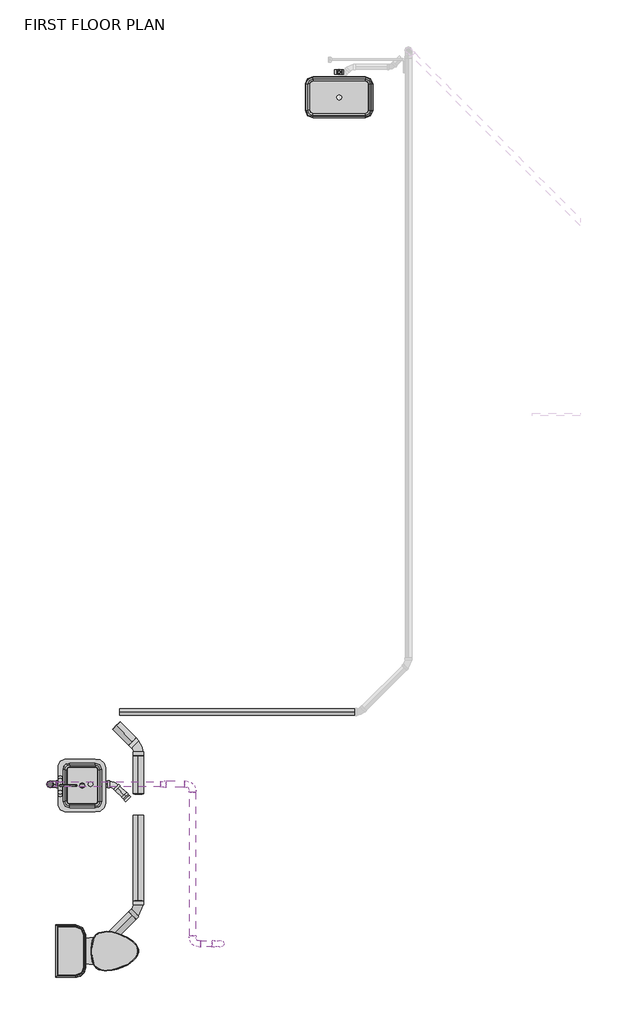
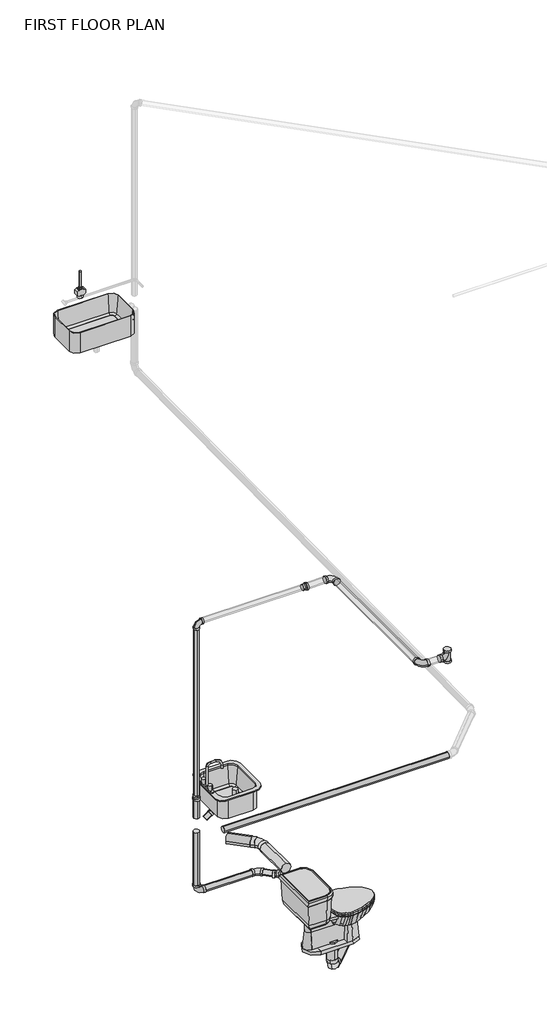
# One storey, part 1 of 2: 18 pipe segments, 13 pipe fittings, 3 flow terminals.
"""IFC4 building model written with IfcOpenShell, lengths in millimetres."""

from ifc_helpers import new_model, si_unit, point, frame, frame_2d, origin, place, context, project, spatial, circle_curve, trimmed, segment, composite_curve, outline, extrude, transform, mapped, element, save
from components import lsy_sink_1a_065a4558, flow_terminal_62a433f7, toilet_domestic_3d1_toilet_domestic_3d_a08e12bc, toilet_domestic_3d1_toilet_domestic_3d_5530cc89, bend_pvc_sch_40_dwv_standard_738aab8b, bend_pvc_sch_40_dwv_standard_9345205b, bend_pvc_sch_40_dwv_standard_cc7cb89c, bend_pvc_sch_40_dwv_standard_a5322a10, bend_pvc_sch_40_dwv_standard_74c0f0ae, bend_pvc_sch_40_dwv_standard_1eaeee76, bend_pvc_sch_40_dwv_standard_ed0e40d1, reducer_pvc_sch_40_dwv_standard_b23fa098, reducer_pvc_sch_40_dwv_standard_540954d9, reducer_pvc_sch_40_dwv_standard_acc2aa3f, tee_sanitary_pvc_sch_40_dwv_standard_7b7ecc20

model = new_model("IFC4")

# Units and contexts
model_context = context("Model", 3, world=origin())
ifc_project = project(units=[si_unit("LENGTHUNIT", "METRE", prefix="MILLI")], contexts=[model_context])

# Site, building, storey
site = spatial("IfcSite", under=ifc_project)
building = spatial("IfcBuilding", under=site)
storey = spatial("IfcBuildingStorey", under=building, Name="FIRST FLOOR PLAN", Elevation=0.0)

# Flow terminals
placement = place(None, origin())
lsy_sink_1a_shape = lsy_sink_1a_065a4558(model_context)
element("IfcFlowTerminal", 1, ObjectType="LSY_Sink_1A : 25\"W x 15\"D", at=placement, inside=storey, context=model_context, shape_type="MappedRepresentation", body=[
    mapped(lsy_sink_1a_shape, transform((14185.1237397, 13153.8286295, -25.4), x_axis=(1.0, 0.0, 0.0), y_axis=(0.0, 1.0, 0.0), z_axis=(0.0, 0.0, 1.0))),
])
flow_terminal_shape = flow_terminal_62a433f7(model_context)
element("IfcFlowTerminal", 2, ObjectType="Sink Vanity-Square : 20\" x 18\"", at=placement, inside=storey, context=model_context, shape_type="MappedRepresentation", body=[
    mapped(flow_terminal_shape, transform((11674.4708809, 6418.6472901, 0.0), x_axis=(0.0, 1.0, 0.0), y_axis=(-1.0, 0.0, 0.0), z_axis=(0.0, 0.0, 1.0))),
])
toilet_domestic_3d1_toilet_domestic_3d_shape = toilet_domestic_3d1_toilet_domestic_3d_a08e12bc(model_context)
toilet_domestic_3d1_toilet_domestic_3d_2_shape = toilet_domestic_3d1_toilet_domestic_3d_5530cc89(model_context)
element("IfcFlowTerminal", 3, ObjectType="Toilet-Domestic-3D1 : Toilet-Domestic-3D", at=placement, inside=storey, context=model_context, shape_type="MappedRepresentation", body=[
    mapped(toilet_domestic_3d1_toilet_domestic_3d_shape, transform((11963.6215072, 4840.8490306, 0.0), x_axis=(0.0, -1.0, 0.0), y_axis=(1.0, 0.0, 0.0), z_axis=(0.0, 0.0, 1.0))),
    mapped(toilet_domestic_3d1_toilet_domestic_3d_2_shape, transform((11963.6215072, 4840.8490306, 0.0), x_axis=(0.0, -1.0, 0.0), y_axis=(1.0, 0.0, 0.0), z_axis=(0.0, 0.0, 1.0))),
])

# Pipe fittings
bend_pvc_sch_40_dwv_standard_shape = bend_pvc_sch_40_dwv_standard_738aab8b(model_context)
element("IfcPipeFitting", 4, ObjectType="Bend - PVC - Sch 40 - DWV : Standard", at=placement, inside=storey, context=model_context, shape_type="MappedRepresentation", body=[
    mapped(bend_pvc_sch_40_dwv_standard_shape, transform((11417.0565969, 6447.2874502, 2578.1558761), x_axis=(0.0, 0.0, 1.0), y_axis=(1.0, 0.0, 0.0), z_axis=(0.0, 1.0, 0.0))),
])
bend_pvc_sch_40_dwv_standard_2_shape = bend_pvc_sch_40_dwv_standard_9345205b(model_context)
element("IfcPipeFitting", 5, ObjectType="Bend - PVC - Sch 40 - DWV : Standard", at=placement, inside=storey, context=model_context, shape_type="MappedRepresentation", body=[
    mapped(bend_pvc_sch_40_dwv_standard_2_shape, transform((11840.9423168, 4814.7781387, -257.1661819), x_axis=(-0.7070684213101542, -0.7070684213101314, 0.010416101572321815), y_axis=(0.007365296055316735, 0.007365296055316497, 0.9999457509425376), z_axis=(-0.7071067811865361, 0.707106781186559, 0.0))),
])
bend_pvc_sch_40_dwv_standard_3_shape = bend_pvc_sch_40_dwv_standard_cc7cb89c(model_context)
element("IfcPipeFitting", 6, ObjectType="Bend - PVC - Sch 40 - DWV : Standard", at=placement, inside=storey, context=model_context, shape_type="MappedRepresentation", body=[
    mapped(bend_pvc_sch_40_dwv_standard_3_shape, transform((11591.3656869, 6447.0365306, 526.8515567), x_axis=(-0.9999989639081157, 0.0014395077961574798, 0.0), y_axis=(0.0, 0.0, -1.0), z_axis=(-0.0014395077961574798, -0.9999989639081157, 0.0))),
])
bend_pvc_sch_40_dwv_standard_4_shape = bend_pvc_sch_40_dwv_standard_a5322a10(model_context)
element("IfcPipeFitting", 7, ObjectType="Bend - PVC - Sch 40 - DWV : Standard", at=placement, inside=storey, context=model_context, shape_type="MappedRepresentation", body=[
    mapped(bend_pvc_sch_40_dwv_standard_4_shape, transform((12266.6594341, 5240.495256, -263.4375873), x_axis=(0.7070684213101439, 0.7070684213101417, -0.010416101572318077), y_axis=(-0.7071319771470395, 0.7070684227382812, -0.004314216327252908), z_axis=(0.004314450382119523, 0.01041600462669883, 0.9999364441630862))),
])
bend_pvc_sch_40_dwv_standard_5_shape = bend_pvc_sch_40_dwv_standard_74c0f0ae(model_context)
element("IfcPipeFitting", 8, ObjectType="Bend - PVC - Sch 40 - DWV : Standard", at=placement, inside=storey, context=model_context, shape_type="MappedRepresentation", body=[
    mapped(bend_pvc_sch_40_dwv_standard_5_shape, transform((12266.6594341, 6800.3087308, -279.6856444), x_axis=(0.0, 0.9999457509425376, -0.0104161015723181), y_axis=(-0.9999080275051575, 0.000141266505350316, 0.013561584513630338), z_axis=(0.013562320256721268, 0.010415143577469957, 0.999853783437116))),
])
bend_pvc_sch_40_dwv_standard_6_shape = bend_pvc_sch_40_dwv_standard_1eaeee76(model_context)
element("IfcPipeFitting", 9, ObjectType="Bend - PVC - Sch 40 - DWV : Standard", at=placement, inside=storey, context=model_context, shape_type="MappedRepresentation", body=[
    mapped(bend_pvc_sch_40_dwv_standard_6_shape, transform((11417.0565969, 6447.2747478, -280.0800585), x_axis=(0.0, 0.0, -1.0), y_axis=(1.0, 0.0, 0.0), z_axis=(0.0, -1.0, 0.0))),
])
element("IfcPipeFitting", 10, ObjectType="Bend - PVC - Sch 40 - DWV : Standard", at=placement, inside=storey, context=model_context, shape_type="MappedRepresentation", body=[
    mapped(bend_pvc_sch_40_dwv_standard_6_shape, transform((12788.6565969, 6447.2874502, 2578.1992188), x_axis=(0.0, 1.0, 0.0), y_axis=(-1.0, 0.0, 0.0), z_axis=(0.0, 0.0, 1.0))),
])
element("IfcPipeFitting", 11, ObjectType="Bend - PVC - Sch 40 - DWV : Standard", at=placement, inside=storey, context=model_context, shape_type="MappedRepresentation", body=[
    mapped(bend_pvc_sch_40_dwv_standard_6_shape, transform((12788.6565969, 4910.5049895, 2578.1992188), x_axis=(0.0, -1.0, 0.0), y_axis=(1.0, 0.0, 0.0), z_axis=(0.0, 0.0, 1.0))),
])
bend_pvc_sch_40_dwv_standard_7_shape = bend_pvc_sch_40_dwv_standard_ed0e40d1(model_context)
element("IfcPipeFitting", 12, ObjectType="Bend - PVC - Sch 40 - DWV : Standard", at=placement, inside=storey, context=model_context, shape_type="MappedRepresentation", body=[
    mapped(bend_pvc_sch_40_dwv_standard_7_shape, transform((12026.8031833, 6447.2747478, -280.0800585), x_axis=(-0.7071067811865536, 0.7071067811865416, 0.0), y_axis=(-0.7071067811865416, -0.7071067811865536, 0.0), z_axis=(0.0, 0.0, 1.0))),
])
reducer_pvc_sch_40_dwv_standard_shape = reducer_pvc_sch_40_dwv_standard_b23fa098(model_context)
element("IfcPipeFitting", 13, ObjectType="Reducer - PVC - Sch 40 - DWV : Standard", at=placement, inside=storey, context=model_context, shape_type="MappedRepresentation", body=[
    mapped(reducer_pvc_sch_40_dwv_standard_shape, transform((11417.0565969, 6447.2874502, 699.3686761), x_axis=(0.0, 0.0, 1.0), y_axis=(0.9999989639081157, -0.0014395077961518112, 0.0), z_axis=(0.0014395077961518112, 0.9999989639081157, 0.0))),
])
reducer_pvc_sch_40_dwv_standard_2_shape = reducer_pvc_sch_40_dwv_standard_540954d9(model_context)
element("IfcPipeFitting", 14, ObjectType="Reducer - PVC - Sch 40 - DWV : Standard", at=placement, inside=storey, context=model_context, shape_type="MappedRepresentation", body=[
    mapped(reducer_pvc_sch_40_dwv_standard_2_shape, transform((12170.1216808, 6303.9562504, -273.5097044), x_axis=(-0.7071067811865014, 0.7071067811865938, 0.0), y_axis=(-0.7070300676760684, -0.707030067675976, 0.014729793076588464), z_axis=(0.010415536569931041, 0.010415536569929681, 0.9998915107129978))),
])
reducer_pvc_sch_40_dwv_standard_3_shape = reducer_pvc_sch_40_dwv_standard_acc2aa3f(model_context)
element("IfcPipeFitting", 15, ObjectType="Reducer - PVC - Sch 40 - DWV : Standard", at=placement, inside=storey, context=model_context, shape_type="MappedRepresentation", body=[
    mapped(reducer_pvc_sch_40_dwv_standard_3_shape, transform((12483.8565969, 6447.2874502, 2578.1558761), x_axis=(1.0, 0.0, 0.0), y_axis=(0.0, 1.0, 0.0), z_axis=(0.0, 0.0, 1.0))),
])
tee_sanitary_pvc_sch_40_dwv_standard_shape = tee_sanitary_pvc_sch_40_dwv_standard_7b7ecc20(model_context)
element("IfcPipeFitting", 16, ObjectType="Tee Sanitary - PVC - Sch 40 - DWV : Standard", at=placement, inside=storey, context=model_context, shape_type="MappedRepresentation", body=[
    mapped(tee_sanitary_pvc_sch_40_dwv_standard_shape, transform((13056.4098972, 4910.5049895, 2578.1992188), x_axis=(0.0, 0.0, -1.0), y_axis=(1.0, 0.0, 0.0), z_axis=(0.0, -1.0, 0.0))),
])

# Pipe segments
element("IfcPipeSegment", 17, ObjectType="Cast Iron - SAN/STORM", at=placement, inside=storey, context=model_context, shape_type="SweptSolid", body=[
    extrude(outline(composite_curve([segment(trimmed(circle_curve(frame_2d((0.0, -50.403125)), 50.403125), [point((50.400391, -50.9281006))], [point((-0.5249756, -100.8035159))], False, "CARTESIAN"), True, "CONTINUOUS"), segment(trimmed(circle_curve(frame_2d((0.0, -50.403125)), 50.403125), [point((-0.5249756, -100.8035159))], [point((-50.400391, -49.8781494))], False, "CARTESIAN"), True, "CONTINUOUS"), segment(trimmed(circle_curve(frame_2d((0.0, -50.403125)), 50.403125), [point((-50.400391, -49.8781494))], [point((0.5249756, -0.002734))], False, "CARTESIAN"), True, "CONTINUOUS"), segment(trimmed(circle_curve(frame_2d((0.0, -50.403125)), 50.403125), [point((0.5249756, -0.002734))], [point((50.400391, -50.9281006))], False, "CARTESIAN"), True, "CONTINUOUS")], self_intersect=False)), frame((12208.2909359, 5182.8691854, -212.1800814), z_axis=(-0.7070684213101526, -0.7070684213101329, 0.010416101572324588), x_axis=(0.7071451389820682, -0.7069917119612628, 0.010414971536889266)), (0.0, 0.0, 1.0), 403.6373836),
])
element("IfcPipeSegment", 18, ObjectType="Cast Iron - SAN/STORM", at=placement, inside=storey, context=model_context, shape_type="SweptSolid", body=[
    extrude(outline(composite_curve([segment(trimmed(circle_curve(frame_2d((0.0, -50.403125)), 50.403125), [point((50.403125, -50.403125))], [point((0.0, -100.8062499))], False, "CARTESIAN"), True, "CONTINUOUS"), segment(trimmed(circle_curve(frame_2d((0.0, -50.403125)), 50.403125), [point((0.0, -100.8062499))], [point((-50.403125, -50.403125))], False, "CARTESIAN"), True, "CONTINUOUS"), segment(trimmed(circle_curve(frame_2d((0.0, -50.403125)), 50.403125), [point((-50.403125, -50.403125))], [point((0.0, 0.0))], False, "CARTESIAN"), True, "CONTINUOUS"), segment(trimmed(circle_curve(frame_2d((0.0, -50.403125)), 50.403125), [point((0.0, 0.0))], [point((50.403125, -50.403125))], False, "CARTESIAN"), True, "CONTINUOUS")], self_intersect=False)), frame((12266.6594341, 6719.8629277, -228.4418078), z_axis=(0.0, -0.9999457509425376, 0.010416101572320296), x_axis=(1.0, 0.0, 0.0)), (0.0, 0.0, 1.0), 366.5183681),
])
element("IfcPipeSegment", 19, ObjectType="Cast Iron - SAN/STORM", at=placement, inside=storey, context=model_context, shape_type="SweptSolid", body=[
    extrude(outline(composite_curve([segment(trimmed(circle_curve(frame_2d((0.0, -50.403125)), 50.403125), [point((-50.4029999, -50.5153783))], [point((-0.1122533, -0.000125))], False, "CARTESIAN"), True, "CONTINUOUS"), segment(trimmed(circle_curve(frame_2d((0.0, -50.403125)), 50.403125), [point((-0.1122533, -0.000125))], [point((50.403, -50.2908716))], False, "CARTESIAN"), True, "CONTINUOUS"), segment(trimmed(circle_curve(frame_2d((0.0, -50.403125)), 50.403125), [point((50.403, -50.2908716))], [point((0.1122534, -100.8061249))], False, "CARTESIAN"), True, "CONTINUOUS"), segment(trimmed(circle_curve(frame_2d((0.0, -50.403125)), 50.403125), [point((0.1122534, -100.8061249))], [point((-50.4029999, -50.5153783))], False, "CARTESIAN"), True, "CONTINUOUS")], self_intersect=False)), frame((12209.3977024, 6857.7216808, -329.9082019), z_axis=(-0.7071514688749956, 0.7070585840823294, 0.0022268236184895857), x_axis=(0.7070620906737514, 0.7071479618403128, 0.0022271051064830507)), (0.0, 0.0, 1.0), 218.87435),
])
element("IfcPipeSegment", 20, ObjectType="Cast Iron - SAN/STORM", at=placement, inside=storey, context=model_context, shape_type="SweptSolid", body=[
    extrude(outline(composite_curve([segment(trimmed(circle_curve(frame_2d((0.0, 50.403125)), 50.403125), [point((-50.403125, 50.4031246))], [point((-3e-07, 100.80625))], False, "CARTESIAN"), True, "CONTINUOUS"), segment(trimmed(circle_curve(frame_2d((0.0, 50.403125)), 50.403125), [point((-3e-07, 100.80625))], [point((50.4031251, 50.4031253))], False, "CARTESIAN"), True, "CONTINUOUS"), segment(trimmed(circle_curve(frame_2d((0.0, 50.403125)), 50.403125), [point((50.4031251, 50.4031253))], [point((4e-07, 0.0))], False, "CARTESIAN"), True, "CONTINUOUS"), segment(trimmed(circle_curve(frame_2d((0.0, 50.403125)), 50.403125), [point((4e-07, 0.0))], [point((-50.403125, 50.4031246))], False, "CARTESIAN"), True, "CONTINUOUS")], self_intersect=False)), frame((11840.9423168, 4764.3750138, -141.2634311), z_axis=(0.00013430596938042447, 5.060759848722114e-05, 0.9999999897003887), x_axis=(0.9999999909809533, -6.7969025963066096e-09, -0.000134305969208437)), (0.0, 0.0, 1.0), 191.0040713),
])
element("IfcPipeSegment", 21, ObjectType="Cast Iron - SAN/STORM", at=placement, inside=storey, context=model_context, shape_type="SweptSolid", body=[
    extrude(outline(composite_curve([segment(trimmed(circle_curve(frame_2d((11417.0565969, 6447.2874502)), 30.1625), [point((11386.8940969, 6447.2874502))], [point((11417.0565969, 6477.4499502))], False, "CARTESIAN"), True, "CONTINUOUS"), segment(trimmed(circle_curve(frame_2d((11417.0565969, 6447.2874502)), 30.1625), [point((11417.0565969, 6477.4499502))], [point((11447.2190969, 6447.2874502))], False, "CARTESIAN"), True, "CONTINUOUS"), segment(trimmed(circle_curve(frame_2d((11417.0565969, 6447.2874502)), 30.1625), [point((11447.2190969, 6447.2874502))], [point((11417.0565969, 6417.1249502))], False, "CARTESIAN"), True, "CONTINUOUS"), segment(trimmed(circle_curve(frame_2d((11417.0565969, 6447.2874502)), 30.1625), [point((11417.0565969, 6417.1249502))], [point((11386.8940969, 6447.2874502))], False, "CARTESIAN"), True, "CONTINUOUS")], self_intersect=False)), frame((0.0, 0.0, 508.5826067), z_axis=(0.0, 0.0, 1.0), x_axis=(1.0, 0.0, 0.0)), (0.0, 0.0, 1.0), 190.7860693),
])
element("IfcPipeSegment", 22, ObjectType="Cast Iron - SAN/STORM", at=placement, inside=storey, context=model_context, shape_type="SweptSolid", body=[
    extrude(outline(composite_curve([segment(trimmed(circle_curve(frame_2d((0.0, 24.209375)), 24.209375), [point((-24.209375, 24.209375))], [point((0.0, 48.41875))], False, "CARTESIAN"), True, "CONTINUOUS"), segment(trimmed(circle_curve(frame_2d((0.0, 24.209375)), 24.209375), [point((0.0, 48.41875))], [point((24.209375, 24.209375))], False, "CARTESIAN"), True, "CONTINUOUS"), segment(trimmed(circle_curve(frame_2d((0.0, 24.209375)), 24.209375), [point((24.209375, 24.209375))], [point((0.0, 0.0))], False, "CARTESIAN"), True, "CONTINUOUS"), segment(trimmed(circle_curve(frame_2d((0.0, 24.209375)), 24.209375), [point((0.0, 0.0))], [point((-24.209375, 24.209375))], False, "CARTESIAN"), True, "CONTINUOUS")], self_intersect=False)), frame((11689.146661, 6446.895774, 502.6421817), z_axis=(-0.9999989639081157, 0.0014395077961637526, 0.0), x_axis=(-0.0014395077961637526, -0.9999989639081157, 0.0)), (0.0, 0.0, 1.0), 51.7562755),
])
element("IfcPipeSegment", 23, ObjectType="Cast Iron - SAN/STORM", at=placement, inside=storey, context=model_context, shape_type="SweptSolid", body=[
    extrude(outline(composite_curve([segment(trimmed(circle_curve(frame_2d((11806.7485452, 6446.730636)), 24.209375), [point((11782.5391702, 6446.730636))], [point((11806.7485452, 6470.940011))], False, "CARTESIAN"), True, "CONTINUOUS"), segment(trimmed(circle_curve(frame_2d((11806.7485452, 6446.730636)), 24.209375), [point((11806.7485452, 6470.940011))], [point((11830.9579202, 6446.730636))], False, "CARTESIAN"), True, "CONTINUOUS"), segment(trimmed(circle_curve(frame_2d((11806.7485452, 6446.730636)), 24.209375), [point((11830.9579202, 6446.730636))], [point((11806.7485452, 6422.521261))], False, "CARTESIAN"), True, "CONTINUOUS"), segment(trimmed(circle_curve(frame_2d((11806.7485452, 6446.730636)), 24.209375), [point((11806.7485452, 6422.521261))], [point((11782.5391702, 6446.730636))], False, "CARTESIAN"), True, "CONTINUOUS")], self_intersect=False)), frame((0.0, 0.0, 471.3248589), z_axis=(0.0, 0.0, 1.0), x_axis=(1.0, 0.0, 0.0)), (0.0, 0.0, 1.0), 202.3705313),
])
element("IfcPipeSegment", 24, ObjectType="Cast Iron - SAN/STORM", at=placement, inside=storey, context=model_context, shape_type="SweptSolid", body=[
    extrude(outline(composite_curve([segment(trimmed(circle_curve(frame_2d((0.0, -24.209375)), 24.209375), [point((0.0609629, -7.67e-05))], [point((24.2092982, -24.2703378))], False, "CARTESIAN"), True, "CONTINUOUS"), segment(trimmed(circle_curve(frame_2d((0.0, -24.209375)), 24.209375), [point((24.2092982, -24.2703378))], [point((-0.0609629, -48.4186732))], False, "CARTESIAN"), True, "CONTINUOUS"), segment(trimmed(circle_curve(frame_2d((0.0, -24.209375)), 24.209375), [point((-0.0609629, -48.4186732))], [point((-24.2092983, -24.1484121))], False, "CARTESIAN"), True, "CONTINUOUS"), segment(trimmed(circle_curve(frame_2d((0.0, -24.209375)), 24.209375), [point((-24.2092983, -24.1484121))], [point((0.0609629, -7.67e-05))], False, "CARTESIAN"), True, "CONTINUOUS")], self_intersect=False)), frame((11503.0240266, 6471.3730226, 465.3526205), z_axis=(0.8204956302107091, -0.0011811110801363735, 0.5716515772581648), x_axis=(0.5716527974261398, 0.0016952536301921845, -0.8204938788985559)), (0.0, 0.0, 1.0), 61.6438542),
])
element("IfcPipeSegment", 25, ObjectType="Cast Iron - SAN/STORM", at=placement, inside=storey, context=model_context, shape_type="SweptSolid", body=[
    extrude(outline(composite_curve([segment(trimmed(circle_curve(frame_2d((0.0, -30.1625)), 30.1625), [point((-30.1625, -30.1625))], [point((0.0, 0.0))], False, "CARTESIAN"), True, "CONTINUOUS"), segment(trimmed(circle_curve(frame_2d((0.0, -30.1625)), 30.1625), [point((0.0, 0.0))], [point((30.1625, -30.1625))], False, "CARTESIAN"), True, "CONTINUOUS"), segment(trimmed(circle_curve(frame_2d((0.0, -30.1625)), 30.1625), [point((30.1625, -30.1625))], [point((0.0, -60.325))], False, "CARTESIAN"), True, "CONTINUOUS"), segment(trimmed(circle_curve(frame_2d((0.0, -30.1625)), 30.1625), [point((0.0, -60.325))], [point((-30.1625, -30.1625))], False, "CARTESIAN"), True, "CONTINUOUS")], self_intersect=False)), frame((11417.0565969, 6417.1122478, -202.2791763), z_axis=(0.0, 2.2616656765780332e-05, 0.9999999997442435), x_axis=(-1.0, 0.0, 0.0)), (0.0, 0.0, 1.0), 561.6374653),
])
element("IfcPipeSegment", 26, ObjectType="Cast Iron - SAN/STORM", at=placement, inside=storey, context=model_context, shape_type="SweptSolid", body=[
    extrude(outline(composite_curve([segment(trimmed(circle_curve(frame_2d((6447.2747478, -280.0800585)), 30.1625), [point((6417.1122478, -280.0800585))], [point((6447.2747478, -249.9175585))], False, "CARTESIAN"), True, "CONTINUOUS"), segment(trimmed(circle_curve(frame_2d((6447.2747478, -280.0800585)), 30.1625), [point((6447.2747478, -249.9175585))], [point((6477.4372478, -280.0800585))], False, "CARTESIAN"), True, "CONTINUOUS"), segment(trimmed(circle_curve(frame_2d((6447.2747478, -280.0800585)), 30.1625), [point((6477.4372478, -280.0800585))], [point((6447.2747478, -310.2425585))], False, "CARTESIAN"), True, "CONTINUOUS"), segment(trimmed(circle_curve(frame_2d((6447.2747478, -280.0800585)), 30.1625), [point((6447.2747478, -310.2425585))], [point((6417.1122478, -280.0800585))], False, "CARTESIAN"), True, "CONTINUOUS")], self_intersect=False)), frame((11494.8567969, 0.0, 0.0), z_axis=(1.0, 0.0, 0.0), x_axis=(0.0, 1.0, 0.0)), (0.0, 0.0, 1.0), 474.7963863),
])
element("IfcPipeSegment", 27, ObjectType="Cast Iron - SAN/STORM", at=placement, inside=storey, context=model_context, shape_type="SweptSolid", body=[
    extrude(outline(composite_curve([segment(trimmed(circle_curve(frame_2d((0.0, 30.1625)), 30.1625), [point((30.1624999, 30.1625))], [point((0.0, 0.0))], False, "CARTESIAN"), True, "CONTINUOUS"), segment(trimmed(circle_curve(frame_2d((0.0, 30.1625)), 30.1625), [point((0.0, 0.0))], [point((-30.1625, 30.1625))], False, "CARTESIAN"), True, "CONTINUOUS"), segment(trimmed(circle_curve(frame_2d((0.0, 30.1625)), 30.1625), [point((-30.1625, 30.1625))], [point((0.0, 60.325))], False, "CARTESIAN"), True, "CONTINUOUS"), segment(trimmed(circle_curve(frame_2d((0.0, 30.1625)), 30.1625), [point((0.0, 60.325))], [point((30.1624999, 30.1625))], False, "CARTESIAN"), True, "CONTINUOUS")], self_intersect=False)), frame((12130.9761831, 6343.1017481, -249.9175585), z_axis=(-0.7071067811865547, 0.7071067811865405, 0.0), x_axis=(0.7071067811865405, 0.7071067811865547, 0.0)), (0.0, 0.0, 1.0), 90.1728691),
])
element("IfcPipeSegment", 28, ObjectType="Cast Iron - SAN/STORM", at=placement, inside=storey, context=model_context, shape_type="SweptSolid", body=[
    extrude(outline(composite_curve([segment(trimmed(circle_curve(frame_2d((0.0, -50.403125)), 50.403125), [point((50.403125, -50.403125))], [point((0.0, -100.80625))], False, "CARTESIAN"), True, "CONTINUOUS"), segment(trimmed(circle_curve(frame_2d((0.0, -50.403125)), 50.403125), [point((0.0, -100.80625))], [point((-50.403125, -50.403125))], False, "CARTESIAN"), True, "CONTINUOUS"), segment(trimmed(circle_curve(frame_2d((0.0, -50.403125)), 50.403125), [point((-50.403125, -50.403125))], [point((0.0, 0.0))], False, "CARTESIAN"), True, "CONTINUOUS"), segment(trimmed(circle_curve(frame_2d((0.0, -50.403125)), 50.403125), [point((0.0, 0.0))], [point((50.403125, -50.403125))], False, "CARTESIAN"), True, "CONTINUOUS")], self_intersect=False)), frame((12266.6594341, 6147.6217737, -222.4809624), z_axis=(0.0, -0.9999457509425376, 0.010416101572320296), x_axis=(1.0, 0.0, 0.0)), (0.0, 0.0, 1.0), 824.1006986),
])
element("IfcPipeSegment", 29, ObjectType="Cast Iron - SAN/STORM", at=placement, inside=storey, context=model_context, shape_type="SweptSolid", body=[
    extrude(outline(composite_curve([segment(trimmed(circle_curve(frame_2d((7141.5988692, -279.0179323)), 30.1625), [point((7111.4363692, -279.0179323))], [point((7141.5988692, -248.8554323))], False, "CARTESIAN"), True, "CONTINUOUS"), segment(trimmed(circle_curve(frame_2d((7141.5988692, -279.0179323)), 30.1625), [point((7141.5988692, -248.8554323))], [point((7171.7613692, -279.0179323))], False, "CARTESIAN"), True, "CONTINUOUS"), segment(trimmed(circle_curve(frame_2d((7141.5988692, -279.0179323)), 30.1625), [point((7171.7613692, -279.0179323))], [point((7141.5988692, -309.1804323))], False, "CARTESIAN"), True, "CONTINUOUS"), segment(trimmed(circle_curve(frame_2d((7141.5988692, -279.0179323)), 30.1625), [point((7141.5988692, -309.1804323))], [point((7111.4363692, -279.0179323))], False, "CARTESIAN"), True, "CONTINUOUS")], self_intersect=False)), frame((12085.8544006, 0.0, 0.0), z_axis=(1.0, 0.0, 0.0), x_axis=(0.0, 1.0, 0.0)), (0.0, 0.0, 1.0), 2265.6870238),
])
element("IfcPipeSegment", 30, ObjectType="Cast Iron - VENT", at=placement, inside=storey, context=model_context, shape_type="SweptSolid", body=[
    extrude(outline(composite_curve([segment(trimmed(circle_curve(frame_2d((11417.0565969, 6447.2874502)), 24.209375), [point((11392.8472219, 6447.2874502))], [point((11417.0565969, 6471.4968252))], False, "CARTESIAN"), True, "CONTINUOUS"), segment(trimmed(circle_curve(frame_2d((11417.0565969, 6447.2874502)), 24.209375), [point((11417.0565969, 6471.4968252))], [point((11441.2659719, 6447.2874502))], False, "CARTESIAN"), True, "CONTINUOUS"), segment(trimmed(circle_curve(frame_2d((11417.0565969, 6447.2874502)), 24.209375), [point((11441.2659719, 6447.2874502))], [point((11417.0565969, 6423.0780752))], False, "CARTESIAN"), True, "CONTINUOUS"), segment(trimmed(circle_curve(frame_2d((11417.0565969, 6447.2874502)), 24.209375), [point((11417.0565969, 6423.0780752))], [point((11392.8472219, 6447.2874502))], False, "CARTESIAN"), True, "CONTINUOUS")], self_intersect=False)), frame((0.0, 0.0, 749.3558761), z_axis=(0.0, 0.0, 1.0), x_axis=(1.0, 0.0, 0.0)), (0.0, 0.0, 1.0), 1766.9002),
])
element("IfcPipeSegment", 31, ObjectType="Cast Iron - VENT", at=placement, inside=storey, context=model_context, shape_type="SweptSolid", body=[
    extrude(outline(composite_curve([segment(trimmed(circle_curve(frame_2d((6447.2874502, 2578.1558761)), 24.209375), [point((6423.0780752, 2578.1558761))], [point((6447.2874502, 2602.3652511))], False, "CARTESIAN"), True, "CONTINUOUS"), segment(trimmed(circle_curve(frame_2d((6447.2874502, 2578.1558761)), 24.209375), [point((6447.2874502, 2602.3652511))], [point((6471.4968252, 2578.1558761))], False, "CARTESIAN"), True, "CONTINUOUS"), segment(trimmed(circle_curve(frame_2d((6447.2874502, 2578.1558761)), 24.209375), [point((6471.4968252, 2578.1558761))], [point((6447.2874502, 2553.9465011))], False, "CARTESIAN"), True, "CONTINUOUS"), segment(trimmed(circle_curve(frame_2d((6447.2874502, 2578.1558761)), 24.209375), [point((6447.2874502, 2553.9465011))], [point((6423.0780752, 2578.1558761))], False, "CARTESIAN"), True, "CONTINUOUS")], self_intersect=False)), frame((11478.9563969, 0.0, 0.0), z_axis=(1.0, 0.0, 0.0), x_axis=(0.0, 1.0, 0.0)), (0.0, 0.0, 1.0), 1004.9002),
])
element("IfcPipeSegment", 32, ObjectType="Cast Iron - VENT", at=placement, inside=storey, context=model_context, shape_type="SweptSolid", body=[
    extrude(outline(composite_curve([segment(trimmed(circle_curve(frame_2d((6447.2874502, 2578.1992187)), 30.1625), [point((6417.1249502, 2578.1992187))], [point((6447.2874502, 2608.3617187))], False, "CARTESIAN"), True, "CONTINUOUS"), segment(trimmed(circle_curve(frame_2d((6447.2874502, 2578.1992187)), 30.1625), [point((6447.2874502, 2608.3617187))], [point((6477.4499502, 2578.1992187))], False, "CARTESIAN"), True, "CONTINUOUS"), segment(trimmed(circle_curve(frame_2d((6447.2874502, 2578.1992187)), 30.1625), [point((6477.4499502, 2578.1992187))], [point((6447.2874502, 2548.0367187))], False, "CARTESIAN"), True, "CONTINUOUS"), segment(trimmed(circle_curve(frame_2d((6447.2874502, 2578.1992187)), 30.1625), [point((6447.2874502, 2548.0367187))], [point((6417.1249502, 2578.1992187))], False, "CARTESIAN"), True, "CONTINUOUS")], self_intersect=False)), frame((12533.8437969, 0.0, 0.0), z_axis=(1.0, 0.0, 0.0), x_axis=(0.0, 1.0, 0.0)), (0.0, 0.0, 1.0), 177.0126),
])
element("IfcPipeSegment", 33, ObjectType="Cast Iron - VENT", at=placement, inside=storey, context=model_context, shape_type="SweptSolid", body=[
    extrude(outline(composite_curve([segment(trimmed(circle_curve(frame_2d((2578.1992187, 12788.6565969)), 30.1625), [point((2578.1992187, 12758.4940969))], [point((2548.0367187, 12788.6565969))], False, "CARTESIAN"), True, "CONTINUOUS"), segment(trimmed(circle_curve(frame_2d((2578.1992187, 12788.6565969)), 30.1625), [point((2548.0367187, 12788.6565969))], [point((2578.1992187, 12818.8190969))], False, "CARTESIAN"), True, "CONTINUOUS"), segment(trimmed(circle_curve(frame_2d((2578.1992187, 12788.6565969)), 30.1625), [point((2578.1992187, 12818.8190969))], [point((2608.3617187, 12788.6565969))], False, "CARTESIAN"), True, "CONTINUOUS"), segment(trimmed(circle_curve(frame_2d((2578.1992187, 12788.6565969)), 30.1625), [point((2608.3617187, 12788.6565969))], [point((2578.1992187, 12758.4940969))], False, "CARTESIAN"), True, "CONTINUOUS")], self_intersect=False)), frame((0.0, 4988.3051895, 0.0), z_axis=(0.0, 1.0, 0.0), x_axis=(0.0, 0.0, 1.0)), (0.0, 0.0, 1.0), 1381.1820607),
])
element("IfcPipeSegment", 34, ObjectType="Cast Iron - VENT", at=placement, inside=storey, context=model_context, shape_type="SweptSolid", body=[
    extrude(outline(composite_curve([segment(trimmed(circle_curve(frame_2d((4910.5049895, 2578.1992188)), 30.1625), [point((4940.6674895, 2578.1992188))], [point((4910.5049895, 2548.0367188))], False, "CARTESIAN"), True, "CONTINUOUS"), segment(trimmed(circle_curve(frame_2d((4910.5049895, 2578.1992188)), 30.1625), [point((4910.5049895, 2548.0367188))], [point((4880.3424895, 2578.1992188))], False, "CARTESIAN"), True, "CONTINUOUS"), segment(trimmed(circle_curve(frame_2d((4910.5049895, 2578.1992188)), 30.1625), [point((4880.3424895, 2578.1992188))], [point((4910.5049895, 2608.3617188))], False, "CARTESIAN"), True, "CONTINUOUS"), segment(trimmed(circle_curve(frame_2d((4910.5049895, 2578.1992188)), 30.1625), [point((4910.5049895, 2608.3617188))], [point((4940.6674895, 2578.1992188))], False, "CARTESIAN"), True, "CONTINUOUS")], self_intersect=False)), frame((12866.4567969, 0.0, 0.0), z_axis=(1.0, 0.0, 0.0), x_axis=(0.0, 1.0, 0.0)), (0.0, 0.0, 1.0), 112.1529003),
])

save(model, "model.ifc")
